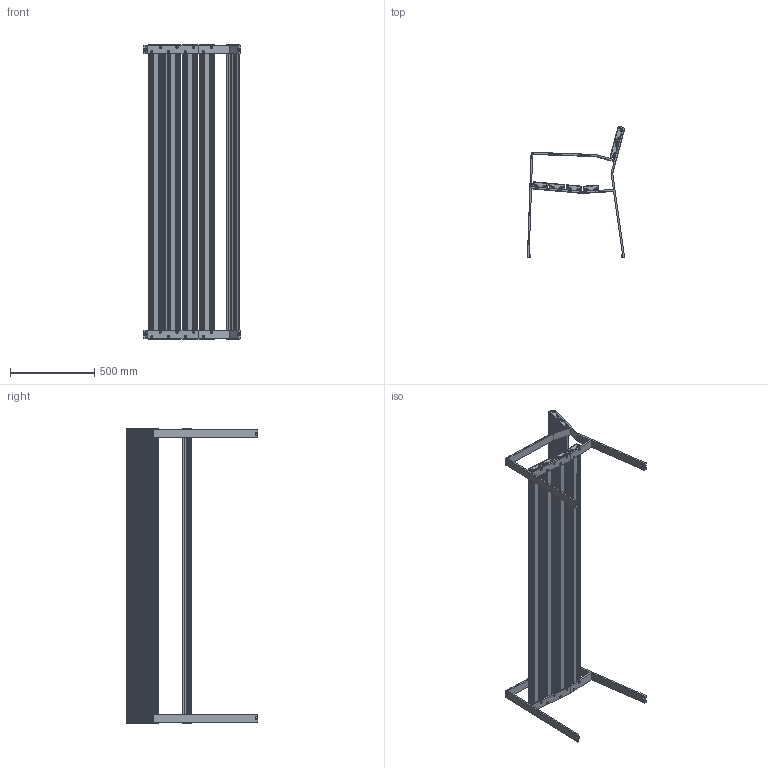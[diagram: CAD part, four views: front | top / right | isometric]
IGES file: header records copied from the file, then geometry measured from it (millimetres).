
Start section: SolidWorks IGES file using analytic representation for surfaces
Global section: file name: C:\SANTACOLE_PDM\Proyectos Catálogo\PROD-P13-073 -- BANCO HARPO\6_Técnico comercial\3D WEB\Banco Harpo 175cm Aluminio - Bench Harpo 175 cm Aluminium.IGS; native system: SolidWorks 2013; preprocessor: SolidWorks 2013; author: jordi.munoz; date: 150622.121721; units: millimetre
Bounding box: 578.04 x 781.32 x 1754.33 mm (x, y, z)
Surface area: 7378647.2 mm2 (no closed solid volume)
Topology: 0 solids, 0 shells, 3540 faces, 32200 edges, 32152 vertices
Faces by surface type: revolution 2222, bspline 1318
